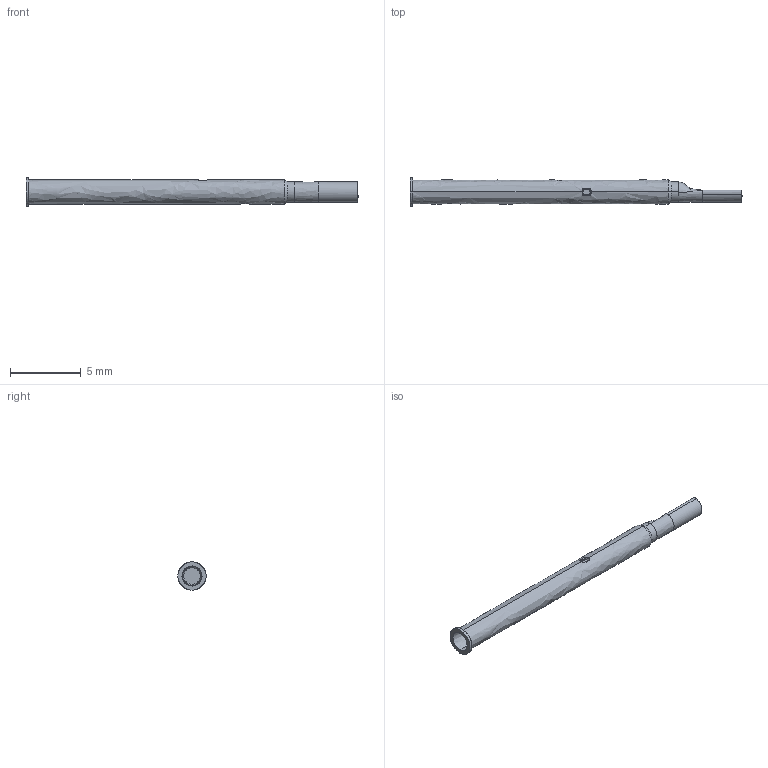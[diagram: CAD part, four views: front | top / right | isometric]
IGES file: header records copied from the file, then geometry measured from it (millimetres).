
Start section: SolidWorks IGES file using analytic representation for surfaces
Global section: file name: \\CODA-VM-SBS\RedirectedFolders\georged\My Documents\CODA CAD FILES\GENERAL PURPOSE TEST PROBES\SHORT REACH TEST PROBES\PA3\RA3SF.IGS; native system: SolidWorks 2024; preprocessor: SolidWorks 2024; author: GeorgeD; date: 240710.101856; units: millimetre
Bounding box: 23.5 x 2 x 2 mm (x, y, z)
Surface area: 220 mm2 (no closed solid volume)
Topology: 0 solids, 0 shells, 83 faces, 618 edges, 610 vertices
Faces by surface type: revolution 44, bspline 39
